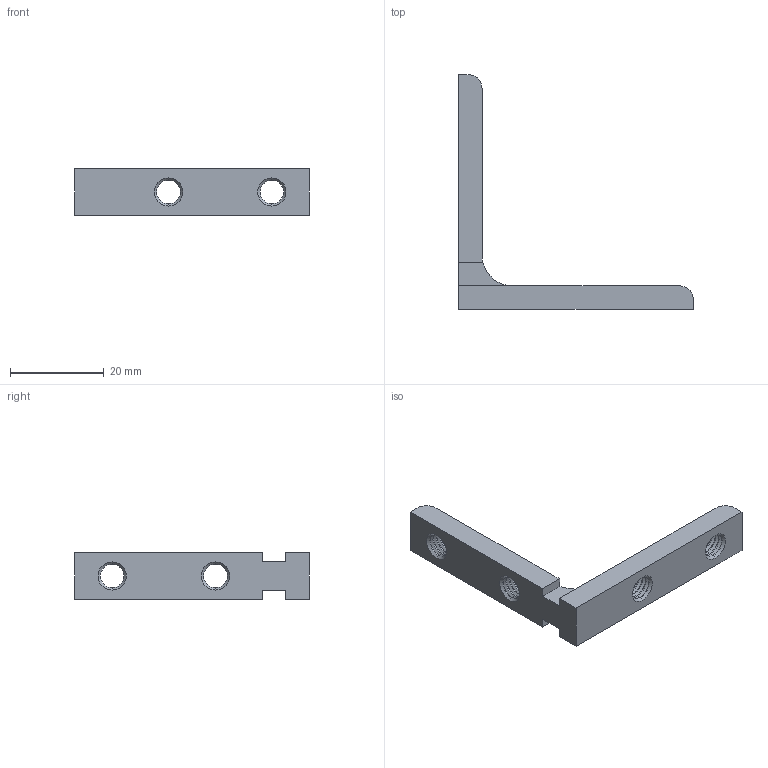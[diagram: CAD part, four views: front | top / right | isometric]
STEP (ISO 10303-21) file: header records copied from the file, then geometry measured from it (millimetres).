
FILE_DESCRIPTION (( 'STEP AP203' ), '1' );
FILE_NAME ('HLS0660.STEP', '2024-02-17T07:06:39', ( '' ), ( '' ), 'SwSTEP 2.0', 'SolidWorks 2022', '' );
FILE_SCHEMA (( 'CONFIG_CONTROL_DESIGN' ));
Length unit declared in the file: millimetre
Products named in the file (1): HLS0660
Bounding box: 50 x 50 x 10 mm (x, y, z)
Volume: 4203.1 mm3; surface area: 3194.5 mm2
Topology: 1 solids, 1 shells, 137 faces, 293 edges, 158 vertices
Faces by surface type: cone 80, cylinder 43, plane 14
Entity records: 3700 total; most frequent: DIRECTION 705, CARTESIAN_POINT 589, ORIENTED_EDGE 586, EDGE_CURVE 293, AXIS2_PLACEMENT_3D 274, VERTEX_POINT 158, LINE 157, VECTOR 157
